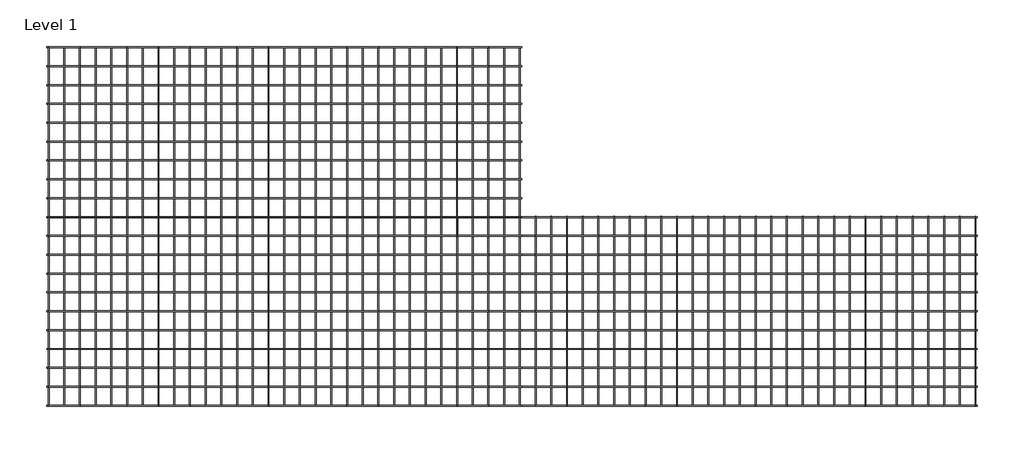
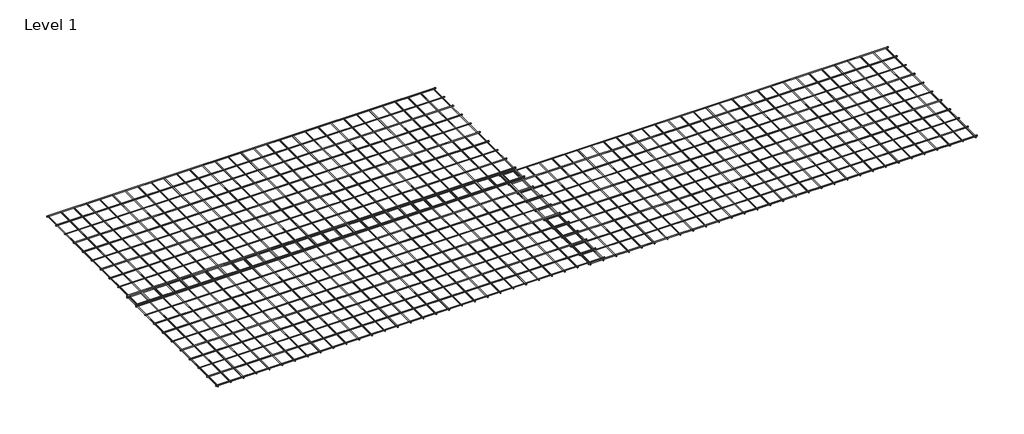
# One storey: 3 proxies.
"""IFC4 building model written with IfcOpenShell, lengths in millimetres."""

from ifc_helpers import new_model, si_unit, origin, place, context, project, spatial, transform, mapped, element, save
from components import united_steel_ductile_se62_large_mesh_united_steel_ductile_fbff7de9

model = new_model("IFC4")

# Units and contexts
model_context = context("Model", 3, world=origin())
ifc_project = project(units=[si_unit("LENGTHUNIT", "METRE", prefix="MILLI")], contexts=[model_context])

# Site, building, storey
site = spatial("IfcSite", under=ifc_project)
building = spatial("IfcBuilding", under=site)
storey = spatial("IfcBuildingStorey", under=building, Name="Level 1", Elevation=0.0)

# Proxies
placement = place(None, origin())
united_steel_ductile_se62_large_mesh_united_steel_ductile_shape = united_steel_ductile_se62_large_mesh_united_steel_ductile_fbff7de9(model_context)
element("IfcBuildingElementProxy", 1, Name="United Steel Ductile SE62 Large Mesh : United Steel Ductile SE62 Large Mesh", ObjectType="United Steel Ductile SE62 Large Mesh : United Steel Ductile SE62 Large Mesh", at=placement, inside=storey, context=model_context, shape_type="MappedRepresentation", body=[
    mapped(united_steel_ductile_se62_large_mesh_united_steel_ductile_shape, transform((5486.4419089, 2142.5657499, 73.125), x_axis=(1.0, 0.0, 0.0), y_axis=(0.0, 1.0, 0.0), z_axis=(0.0, 0.0, 1.0))),
])
element("IfcBuildingElementProxy", 2, Name="United Steel Ductile SE62 Large Mesh : United Steel Ductile SE62 Large Mesh", ObjectType="United Steel Ductile SE62 Large Mesh : United Steel Ductile SE62 Large Mesh", at=placement, inside=storey, context=model_context, shape_type="MappedRepresentation", body=[
    mapped(united_steel_ductile_se62_large_mesh_united_steel_ductile_shape, transform((5486.2856589, 4302.6324308, 97.5), x_axis=(1.0, 0.0, 0.0), y_axis=(0.0, 1.0, 0.0), z_axis=(0.0, 0.0, 1.0))),
])
element("IfcBuildingElementProxy", 3, Name="United Steel Ductile SE62 Large Mesh : United Steel Ductile SE62 Large Mesh", ObjectType="United Steel Ductile SE62 Large Mesh : United Steel Ductile SE62 Large Mesh", at=placement, inside=storey, context=model_context, shape_type="MappedRepresentation", body=[
    mapped(united_steel_ductile_se62_large_mesh_united_steel_ductile_shape, transform((11286.1955059, 2142.5757703, 48.75), x_axis=(1.0, 0.0, 0.0), y_axis=(0.0, 1.0, 0.0), z_axis=(0.0, 0.0, 1.0))),
])

save(model, "model.ifc")
